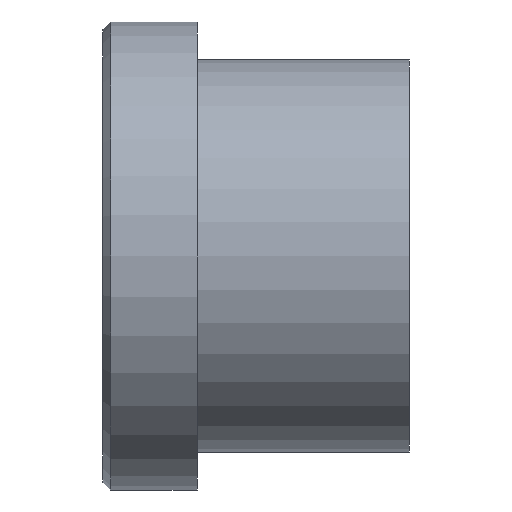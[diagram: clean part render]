
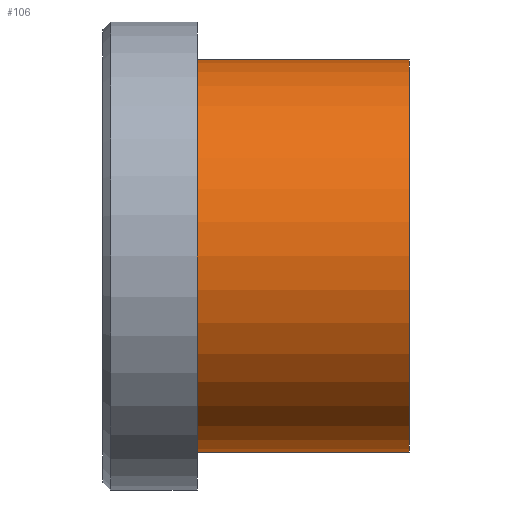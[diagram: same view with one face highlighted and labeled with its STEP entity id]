
A CAD part, front view. The second image highlights one B-rep face of the part: STEP entity #106.
In plain terms, the highlighted cylindrical face has radius 125 mm (diameter 250 mm), a full revolution.
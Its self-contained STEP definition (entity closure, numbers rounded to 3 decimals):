
#13=CYLINDRICAL_SURFACE($,#123,125.);
#25=FACE_BOUND($,#45,.T.);
#32=FACE_OUTER_BOUND($,#44,.T.);
#44=EDGE_LOOP($,(#84));
#45=EDGE_LOOP($,(#85));
#55=CIRCLE($,#122,125.);
#56=CIRCLE($,#124,125.);
#63=VERTEX_POINT($,#178);
#64=VERTEX_POINT($,#181);
#71=EDGE_CURVE($,#63,#63,#55,.T.);
#72=EDGE_CURVE($,#64,#64,#56,.T.);
#84=ORIENTED_EDGE($,*,*,#72,.F.);
#85=ORIENTED_EDGE($,*,*,#71,.T.);
#106=ADVANCED_FACE($,(#32,#25),#13,.T.);
#122=AXIS2_PLACEMENT_3D($,#179,#150,#151);
#123=AXIS2_PLACEMENT_3D($,#180,#152,#153);
#124=AXIS2_PLACEMENT_3D($,#182,#154,#155);
#150=DIRECTION('center_axis',(1.,0.,0.));
#151=DIRECTION('ref_axis',(0.,1.,0.));
#152=DIRECTION('center_axis',(1.,0.,0.));
#153=DIRECTION('ref_axis',(0.,1.,0.));
#154=DIRECTION('center_axis',(1.,0.,0.));
#155=DIRECTION('ref_axis',(0.,1.,0.));
#178=CARTESIAN_POINT('',(60.,125.,0.));
#179=CARTESIAN_POINT('Origin',(60.,0.,0.));
#180=CARTESIAN_POINT('Origin',(127.5,0.,0.));
#181=CARTESIAN_POINT('',(195.,125.,0.));
#182=CARTESIAN_POINT('Origin',(195.,0.,0.));
